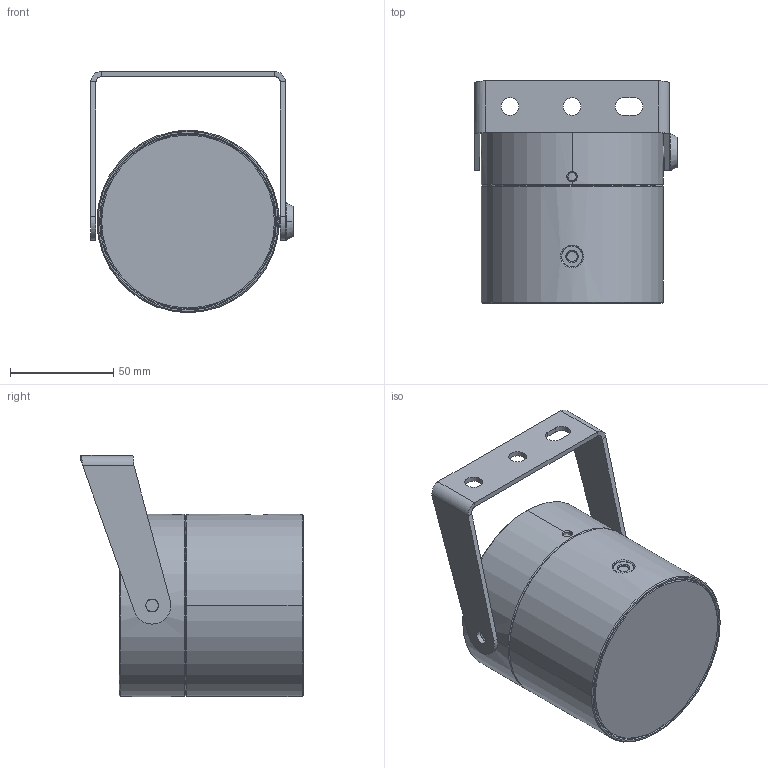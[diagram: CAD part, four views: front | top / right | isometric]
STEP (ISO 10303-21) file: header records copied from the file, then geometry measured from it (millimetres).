
FILE_DESCRIPTION((''),'2;1');
FILE_NAME('FOCUS_4_SW0002','2025-05-16T13:20:31',('elena.baldelli'),(''),'CREO PARAMETRIC BY PTC INC, 2020354','CREO PARAMETRIC BY PTC INC, 2020354','');
FILE_SCHEMA(('CONFIG_CONTROL_DESIGN'));
Length unit declared in the file: millimetre
Products named in the file (1): FOCUS_4_SW0002
Bounding box: 97.8 x 107.44 x 116.5 mm (x, y, z)
Surface area: 80727.4 mm2 (no closed solid volume)
Topology: 0 solids, 43 shells, 217 faces, 1250 edges, 1082 vertices
Faces by surface type: cylinder 76, plane 74, cone 36, bspline 18, torus 13
Entity records: 17837 total; most frequent: CARTESIAN_POINT 8909, ORIENTED_EDGE 1676, DIRECTION 1548, EDGE_CURVE 1250, VERTEX_POINT 1082, VECTOR 614, LINE 614, AXIS2_PLACEMENT_3D 467
